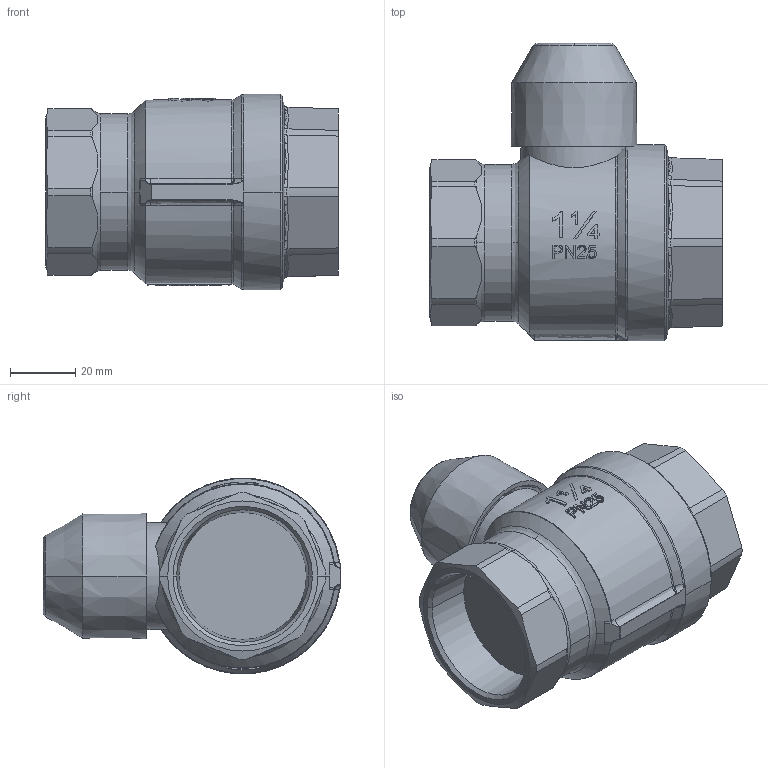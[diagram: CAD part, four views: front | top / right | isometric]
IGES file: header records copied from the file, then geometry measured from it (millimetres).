
Global section: file name: No Iges File Name specified; native system: AutoDesk Inventor R12.0; preprocessor: AutoDesk Inventor Iges Exporter R12.0; date: 20110214.150146; units: millimetre
Bounding box: 89.63 x 91.1 x 60 mm (x, y, z)
Volume: 193241.9 mm3; surface area: 34953.8 mm2
Topology: 1 solids, 1 shells, 502 faces, 1343 edges, 863 vertices
Faces by surface type: plane 198, bspline 166, cylinder 50, revolution 39, cone 26, torus 23
Full cylindrical faces by diameter (mm): 32.798 x1
